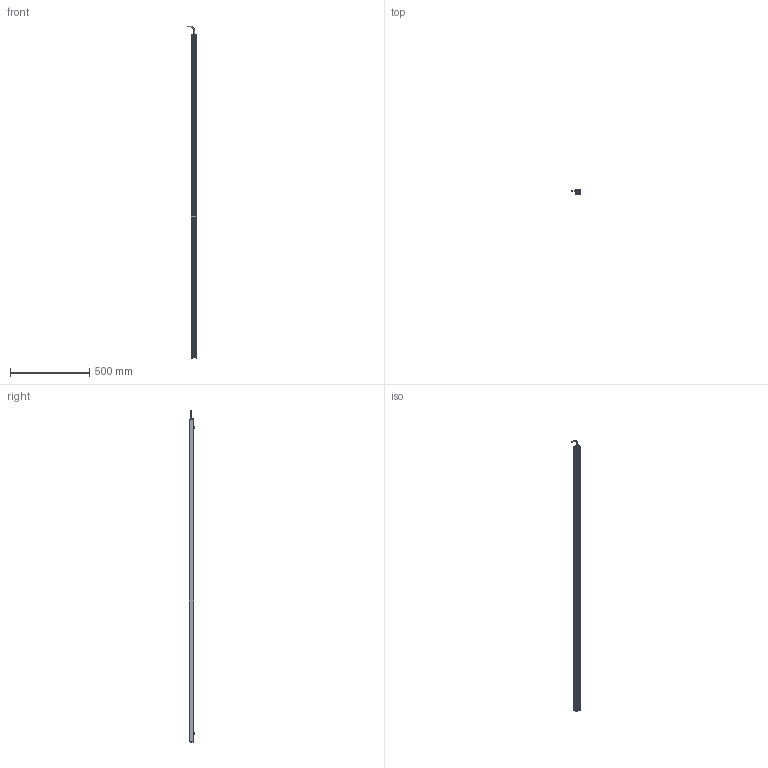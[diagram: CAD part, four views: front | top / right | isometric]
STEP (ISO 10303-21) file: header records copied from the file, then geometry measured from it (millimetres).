
FILE_DESCRIPTION (( 'STEP AP214' ), '1' );
FILE_NAME ('AL150XXXX_AL150468.stp', '2021-04-29T15:42:09', ( '' ), ( '' ), 'SwSTEP 2.0', 'SolidWorks 2018', '' );
FILE_SCHEMA (( 'AUTOMOTIVE_DESIGN' ));
Length unit declared in the file: inch
Products named in the file (12): 150-03-006-XXXX_150-03-006-468; 1157 (no strap); 093145_93701A253; Part1^AL150XXXX; 092408_TRUNCATED; HN-M6_90592A016; 116-02-007; 150-01-005-XXX_150-01-005-468; CHM6x8_91460A312; AL150XXXX_AL150468; Part2^AL150XXXX; 116-02-006
Assembly tree (18 placements, depth 2):
  Part1^AL150XXXX
  AL150XXXX_AL150468
    150-01-005-XXX_150-01-005-468
    116-02-006
    093145_93701A253  x8
    HN-M6_90592A016  x2
    CHM6x8_91460A312  x2
    150-03-006-XXXX_150-03-006-468
    116-02-007
    1157 (no strap)
    092408_TRUNCATED
  Part2^AL150XXXX
Bounding box: 60.68 x 33.84 x 2096.95 mm (x, y, z)
Volume: 630828.8 mm3; surface area: 665193.4 mm2
Topology: 26 solids, 26 shells, 1306 faces, 3436 edges, 2127 vertices
Faces by surface type: cylinder 805, cone 249, plane 153, torus 59, bspline 32, sphere 8
Entity records: 18285 total; most frequent: CARTESIAN_POINT 6069, ORIENTED_EDGE 2496, DIRECTION 2311, EDGE_CURVE 1248, AXIS2_PLACEMENT_3D 881, VERTEX_POINT 800, VECTOR 549, LINE 549
